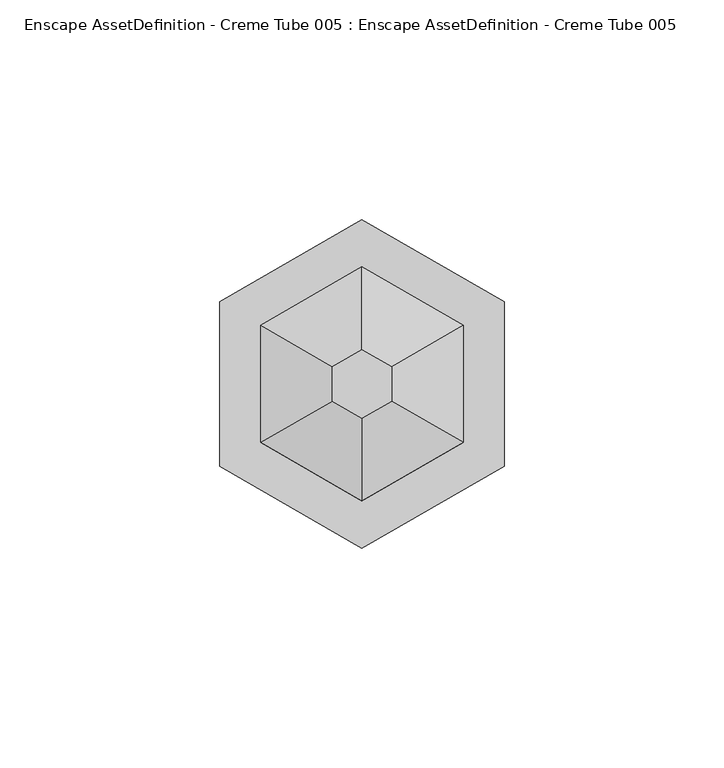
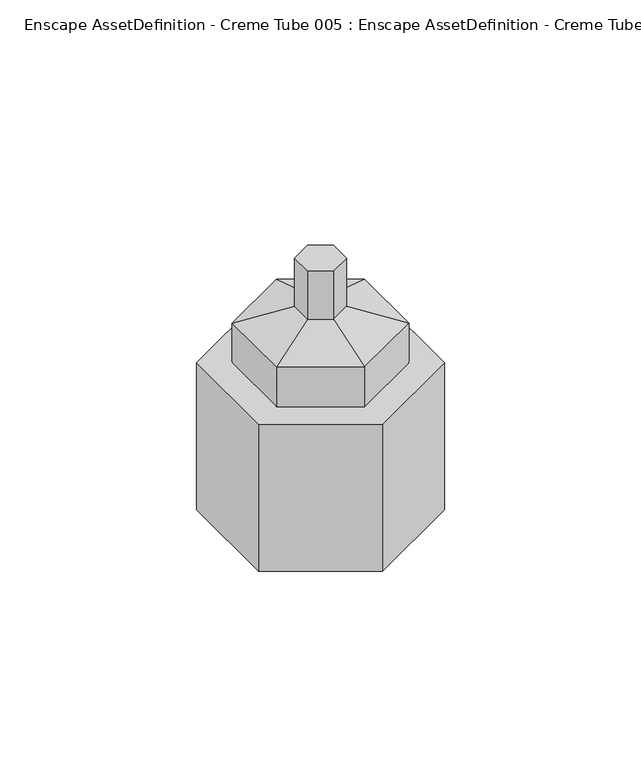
"""IFC4 building model written with IfcOpenShell, lengths in millimetres: geographic element geometry, Enscape AssetDefinition - Creme Tube 005 : Enscape AssetDefinition - Creme Tube 005."""

from ifc_helpers import new_model, si_unit, origin, place, context, project, spatial, triangles, source, transform, mapped, element, save


def enscape_assetdefinition_creme_tube_005_enscape_07ce0c4e(model_context):
    return source(origin(), model_context, "Body", "Tessellation", [
        triangles([(0.0, -37.4009579, 0.0), (-32.3902672, -18.7009104, 0.0), (-32.3902672, 18.7009104, 0.0), (-32.3902672, 18.7009104, 54.1557015), (32.3902672, 18.7009104, 0.0), (0.0, 37.4009579, 54.1557015), (0.0, 37.4009579, 0.0), (32.3902672, -18.7009104, 0.0), (32.3902672, -18.7009104, 54.1557015), (0.0, -37.4009579, 54.1557015), (0.0, -26.6351497, 54.1557015), (-23.0668901, -13.3180041, 54.1557015), (-23.0668901, -13.3180041, 68.7897737), (0.0, -26.6351497, 68.7897737), (-6.7496919, -3.8966315, 74.9403158), (0.0, 26.6351497, 68.7897737), (-23.0668901, 13.3180041, 68.7897737), (-32.3902672, -18.7009104, 54.1557015), (-23.0668901, 13.3180041, 54.1557015), (0.0, 26.6351497, 54.1557015), (6.7496919, 3.8966315, 74.9403158), (-6.7496919, 3.8966315, 74.9403158), (0.0, 7.793263, 74.9403158), (6.7496919, 3.8966315, 92.6990838), (23.0668901, 13.3180041, 54.1557015), (6.7496919, -3.8966315, 74.9403158), (23.0668901, 13.3180041, 68.7897737), (0.0, -7.793263, 92.6990838), (0.0, -7.793263, 74.9403158), (6.7496919, -3.8966315, 92.6990838), (23.0668901, -13.3180041, 68.7897737), (32.3902672, 18.7009104, 54.1557015), (23.0668901, -13.3180041, 54.1557015), (-6.7496919, -3.8966315, 92.6990838), (-6.7496919, 3.8966315, 92.6990838), (0.0, 7.793263, 92.6990838)], [[30, 24, 36], [36, 35, 30], [22, 35, 36], [15, 35, 22], [35, 34, 30], [15, 34, 35], [34, 28, 30], [29, 28, 34], [29, 34, 15], [14, 29, 15], [4, 20, 6], [32, 6, 20], [32, 25, 33], [32, 20, 25], [33, 31, 14], [31, 29, 14], [25, 31, 33], [26, 30, 28], [31, 26, 29], [26, 28, 29], [25, 27, 31], [27, 26, 31], [20, 27, 25], [21, 24, 30], [27, 21, 26], [21, 30, 26], [23, 36, 24], [23, 24, 21], [22, 36, 23], [16, 23, 21], [20, 16, 27], [16, 21, 27], [4, 19, 20], [19, 16, 20], [18, 19, 4], [17, 22, 23], [19, 17, 16], [17, 23, 16], [13, 15, 22], [13, 22, 17], [14, 15, 13], [12, 13, 17], [18, 12, 19], [12, 17, 19], [11, 14, 13], [11, 13, 12], [33, 14, 11], [9, 33, 11], [5, 32, 9], [32, 33, 9], [10, 11, 12], [9, 11, 10], [10, 12, 18], [1, 10, 18], [8, 9, 10], [8, 10, 1], [5, 9, 8], [7, 5, 8], [7, 6, 32], [7, 32, 5], [3, 4, 6], [3, 6, 7], [8, 1, 2], [2, 3, 7], [2, 18, 4], [7, 8, 2], [1, 18, 2], [2, 4, 3]]),
    ])


if __name__ == "__main__":
    model = new_model("IFC4")
    model_context = context("Model", 3, world=origin())
    ifc_project = project(units=[si_unit("LENGTHUNIT", "METRE", prefix="MILLI")], contexts=[model_context])
    site = spatial("IfcSite", under=ifc_project)
    building = spatial("IfcBuilding", under=site)
    placement = place(None, origin())
    enscape_assetdefinition_creme_tube_005_enscape_shape = enscape_assetdefinition_creme_tube_005_enscape_07ce0c4e(model_context)
    element("IfcGeographicElement", 1, ObjectType="Enscape AssetDefinition - Creme Tube 005 : Enscape AssetDefinition - Creme Tube 005", at=placement, inside=building, context=model_context, shape_type="MappedRepresentation", body=[
        mapped(enscape_assetdefinition_creme_tube_005_enscape_shape, transform((0.0, 0.0, 0.0), x_axis=(1.0, 0.0, 0.0), y_axis=(0.0, 1.0, 0.0), z_axis=(0.0, 0.0, 1.0))),
    ])
    save(model, "model.ifc")
